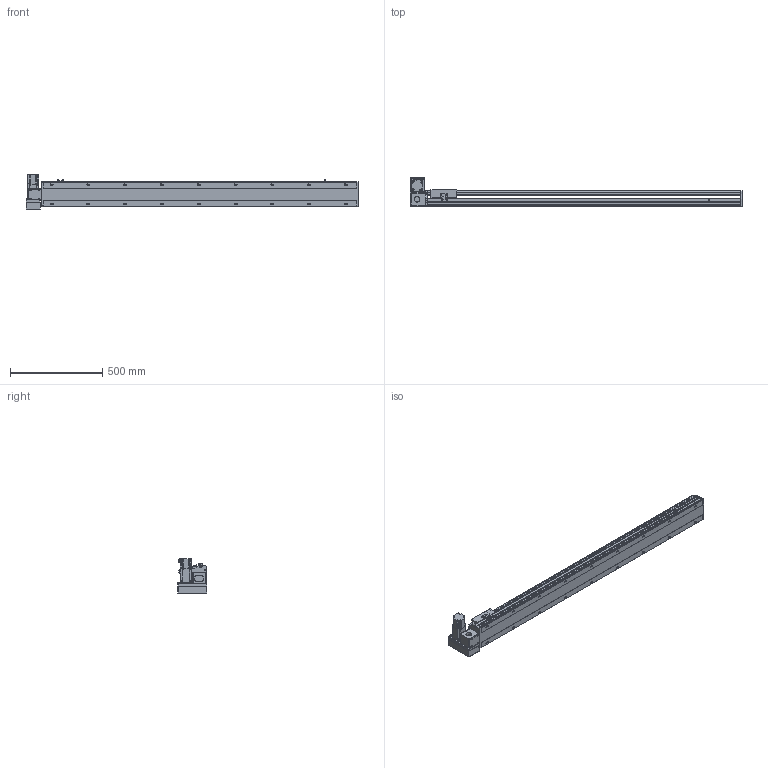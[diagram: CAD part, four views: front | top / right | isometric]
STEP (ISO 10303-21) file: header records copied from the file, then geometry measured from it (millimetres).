
FILE_DESCRIPTION( ( 'STEP AP214' ), '1' );
FILE_NAME( 'x:/temp/worker_6/temp/exporttempdir_5396_133_Q8mGh/format_0/PBS140S-P40-S1450-LU-T40-C1-N(0).stp', '2022-06-09T00:34:55', ( 'License CC BY-ND 4.0' ), ( 'CADENAS' ), ' ', 'PARTsolutions', ' ' );
FILE_SCHEMA( ( 'AUTOMOTIVE_DESIGN { 1 0 10303 214 1 1 1 1 }' ) );
Length unit declared in the file: millimetre
Products named in the file (7): PBS140S-P40-S1450-LU-T40-C1-N(0); _PBS140S-S1450()_body; _PBS140ST-LU_motors; _T40-p1; _PBS140S_sliser; _PBS140S_plant; _PBS140S_sensor
Assembly tree (8 placements, depth 2):
  PBS140S-P40-S1450-LU-T40-C1-N(0)
    _PBS140S-S1450()_body
    _PBS140ST-LU_motors
    _T40-p1
    _PBS140S_sliser
    _PBS140S_plant
    _PBS140S_sensor  x3
Bounding box: 1804 x 162.5 x 189.7 mm (x, y, z)
Volume: 9090074.9 mm3; surface area: 1553830.8 mm2
Topology: 8 solids, 8 shells, 1115 faces, 2951 edges, 1931 vertices
Faces by surface type: plane 708, cylinder 353, cone 44, sphere 8, torus 2
Full cylindrical faces by diameter (mm): 3.242 x4, 4 x2, 4.134 x4, 4.4 x8, 4.5 x2, 4.8 x4, 4.917 x26, 5.5 x7, 6 x2, 7 x20, 7.5 x8, 8 x12, 8.5 x4, 10.5 x18, 14 x1, 30 x2, 50 x2
Entity records: 40978 total; most frequent: CARTESIAN_POINT 6574, DIRECTION 5418, ORIENTED_EDGE 5122, EDGE_CURVE 2561, AXIS2_PLACEMENT_3D 1889, VERTEX_POINT 1777, LINE 1640, VECTOR 1640
